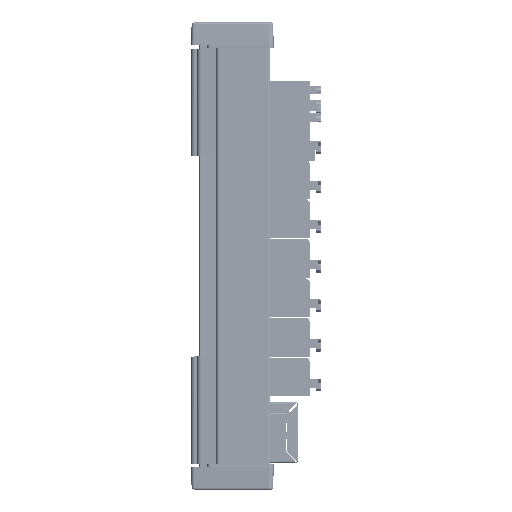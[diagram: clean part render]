
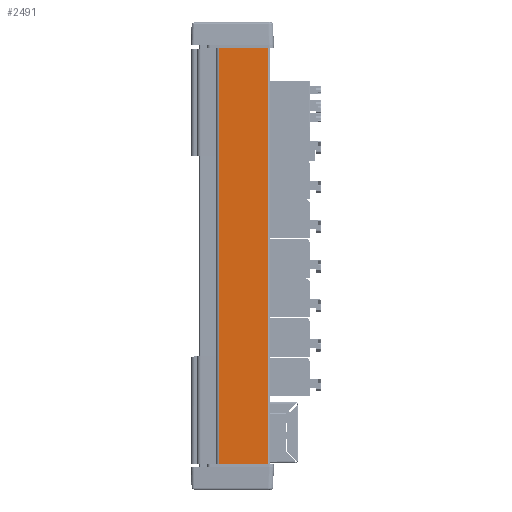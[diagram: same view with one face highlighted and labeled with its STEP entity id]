
A CAD part, left-side view. The second image highlights one B-rep face of the part: STEP entity #2491.
In plain terms, the highlighted planar face has unit normal (-1, 0, 0).
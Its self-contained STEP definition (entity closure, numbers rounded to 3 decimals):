
#87=DIRECTION('',(0.,0.,-1.));
#88=VECTOR('',#87,117.6);
#89=CARTESIAN_POINT('',(-127.,-10.85,11.35));
#90=LINE('',#89,#88);
#252=DIRECTION('',(0.,1.,0.));
#253=VECTOR('',#252,13.5);
#254=CARTESIAN_POINT('',(-127.,-24.35,11.35));
#255=LINE('',#254,#253);
#761=DIRECTION('',(0.,-1.,0.));
#762=VECTOR('',#761,13.5);
#763=CARTESIAN_POINT('',(-127.,-10.85,-106.25));
#764=LINE('',#763,#762);
#1015=DIRECTION('',(0.,0.,-1.));
#1016=VECTOR('',#1015,117.6);
#1017=CARTESIAN_POINT('',(-127.,-24.35,11.35));
#1018=LINE('',#1017,#1016);
#1063=CARTESIAN_POINT('',(-127.,-24.35,11.35));
#1064=VERTEX_POINT('',#1063);
#1065=CARTESIAN_POINT('',(-127.,-10.85,11.35));
#1066=VERTEX_POINT('',#1065);
#1231=CARTESIAN_POINT('',(-127.,-24.35,-106.25));
#1232=VERTEX_POINT('',#1231);
#1233=CARTESIAN_POINT('',(-127.,-10.85,-106.25));
#1234=VERTEX_POINT('',#1233);
#2479=CARTESIAN_POINT('',(-127.,-24.8,-53.3));
#2480=DIRECTION('',(1.,0.,0.));
#2481=DIRECTION('',(0.,0.,1.));
#2482=AXIS2_PLACEMENT_3D('',#2479,#2480,#2481);
#2483=PLANE('',#2482);
#2484=ORIENTED_EDGE('',*,*,#1384,.F.);
#2485=ORIENTED_EDGE('',*,*,#1999,.F.);
#2487=ORIENTED_EDGE('',*,*,#2486,.T.);
#2488=ORIENTED_EDGE('',*,*,#2268,.F.);
#2489=EDGE_LOOP('',(#2484,#2485,#2487,#2488));
#2490=FACE_OUTER_BOUND('',#2489,.F.);
#1384=EDGE_CURVE('',#1066,#1234,#90,.T.);
#1999=EDGE_CURVE('',#1064,#1066,#255,.T.);
#2268=EDGE_CURVE('',#1234,#1232,#764,.T.);
#2486=EDGE_CURVE('',#1064,#1232,#1018,.T.);
#2491=ADVANCED_FACE('',(#2490),#2483,.F.);
